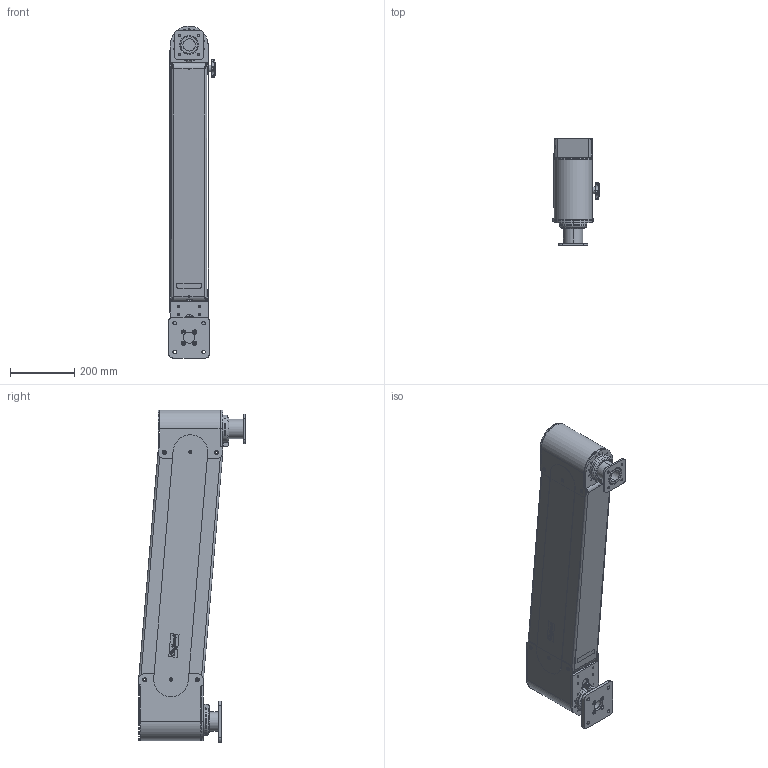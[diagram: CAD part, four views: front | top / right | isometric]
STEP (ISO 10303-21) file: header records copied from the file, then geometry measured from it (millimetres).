
FILE_DESCRIPTION (( 'STEP AP203' ), '1' );
FILE_NAME ('vhds36.STEP', '2009-04-01T17:45:08', ( '' ), ( '' ), 'SwSTEP 2.0', 'SolidWorks 2007', '' );
FILE_SCHEMA (( 'CONFIG_CONTROL_DESIGN' ));
Products named in the file (50): 87934708; 87934700; 87934716_87934716; 87934710; 87934694; 87934698; 87934730; 87934728; 87936752; 87936748; 87937583; 87937567; 87937585; 87934438; 87939216; 87780086; vhds36; 87934732; 87934722; 87934702; 87934706; 87934704; 87934720_87934720; 87934718; 99415309_99401498; 87934758; 87934756_87934756; 87935693; 87934696; 99412269; 87934726; 87934724; 87932200; 87934434; 87934736; 87936760; 87937563; 87936754; 87934738; 87936689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
Assembly tree (81 placements, depth 4):
  vhds36
    87934720_87934720
      99415309_99401498  x4
      87934718
    87934768
    87949495
    87934716_87934716
      87934758
        87934756_87934756
        87935693  x2
      87934710
      99415309_99401498  x4
    87780086
    87933722  x2
    87932200  x2
    87934736
      87936760  x2
      87937561
      87934438  x10
      87937585
      87937587  x3
      87939216  x2
      87937563
      87937583
      87936754
        87936689
        87934738
        87935692
      87936758
      87937567
      87937569
      87936752
        87936748
        87935692
        87934738
      87937575
      87937571
    87934700
      87934694
      99412269  x4
      87934698
      87934696
    87934732
      87934722
      87934730
    87934726
      87934730
      87934724
      87934728
    87934434  x2
    87934708
      87934704
      87934702
      99412269  x2
      87934706
Bounding box: 145 x 332.79 x 1034.36 mm (x, y, z)
Volume: 2594385.8 mm3; surface area: 1782660.5 mm2
Topology: 72 solids, 72 shells, 2526 faces, 6216 edges, 3874 vertices
Faces by surface type: cylinder 918, plane 780, bspline 401, cone 328, torus 85, sphere 14
Entity records: 149334 total; most frequent: CARTESIAN_POINT 102758, ORIENTED_EDGE 8686, DIRECTION 7944, EDGE_CURVE 4343, AXIS2_PLACEMENT_3D 2948, VERTEX_POINT 2729, VECTOR 2048, LINE 2048
